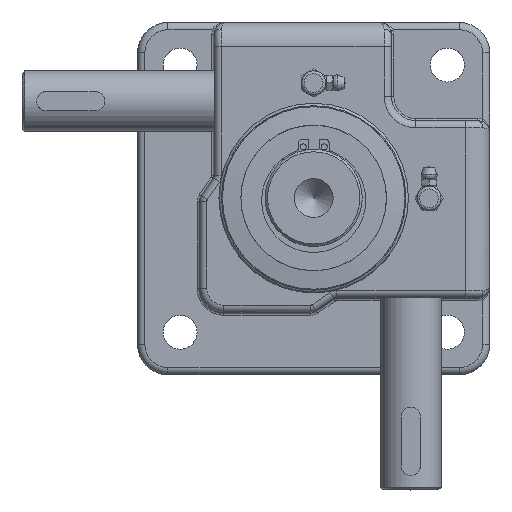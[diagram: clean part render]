
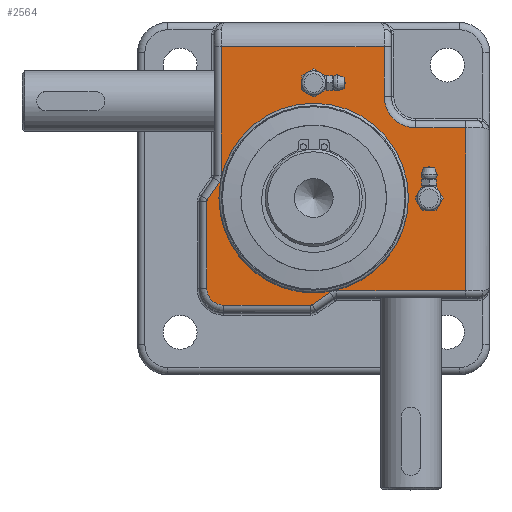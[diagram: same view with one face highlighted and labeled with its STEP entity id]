
A CAD part, top view. The second image highlights one B-rep face of the part: STEP entity #2564.
In plain terms, the highlighted planar face has unit normal (0, 0, 1).
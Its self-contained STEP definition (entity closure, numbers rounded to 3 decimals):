
#2564=ADVANCED_FACE('',(#6739,#6740,#6741,#6742),#6743,.T.);
#6739=FACE_OUTER_BOUND('',#13377,.T.);
#6740=FACE_BOUND('',#13378,.T.);
#6741=FACE_BOUND('',#13379,.T.);
#6742=FACE_BOUND('',#13380,.T.);
#6743=PLANE('',#13381);
#13377=EDGE_LOOP('',(#23647,#23648,#23649,#23650,#23651,#23652,#23653,#23654,#23655,#23656,#23657,#23658,#23659,#23660,#23661,#23662));
#13378=EDGE_LOOP('',(#23663));
#13379=EDGE_LOOP('',(#23664));
#13380=EDGE_LOOP('',(#23665));
#13381=AXIS2_PLACEMENT_3D('',#23666,#23667,#23668);
#23647=ORIENTED_EDGE('',*,*,#40716,.T.);
#23648=ORIENTED_EDGE('',*,*,#40566,.T.);
#23649=ORIENTED_EDGE('',*,*,#40568,.T.);
#23650=ORIENTED_EDGE('',*,*,#40725,.T.);
#23651=ORIENTED_EDGE('',*,*,#40140,.T.);
#23652=ORIENTED_EDGE('',*,*,#40436,.T.);
#23653=ORIENTED_EDGE('',*,*,#40439,.T.);
#23654=ORIENTED_EDGE('',*,*,#40441,.T.);
#23655=ORIENTED_EDGE('',*,*,#40726,.T.);
#23656=ORIENTED_EDGE('',*,*,#40727,.T.);
#23657=ORIENTED_EDGE('',*,*,#40709,.T.);
#23658=ORIENTED_EDGE('',*,*,#39987,.T.);
#23659=ORIENTED_EDGE('',*,*,#40728,.T.);
#23660=ORIENTED_EDGE('',*,*,#39991,.T.);
#23661=ORIENTED_EDGE('',*,*,#40563,.T.);
#23662=ORIENTED_EDGE('',*,*,#40449,.T.);
#23663=ORIENTED_EDGE('',*,*,#40337,.T.);
#23664=ORIENTED_EDGE('',*,*,#40301,.F.);
#23665=ORIENTED_EDGE('',*,*,#40517,.F.);
#23666=CARTESIAN_POINT('',(0.0,0.0,32.5));
#23667=DIRECTION('',(0.,0.,1.0));
#23668=DIRECTION('',(1.0,0.,0.));
#39987=EDGE_CURVE('',#47811,#47816,#47818,.T.);
#39991=EDGE_CURVE('',#47819,#47824,#47826,.T.);
#40140=EDGE_CURVE('',#48114,#48115,#48116,.T.);
#40301=EDGE_CURVE('',#48376,#48376,#48377,.T.);
#40337=EDGE_CURVE('',#48437,#48437,#48438,.T.);
#40436=EDGE_CURVE('',#48115,#48597,#48599,.T.);
#40439=EDGE_CURVE('',#48597,#48601,#48603,.T.);
#40441=EDGE_CURVE('',#48601,#48604,#48606,.T.);
#40449=EDGE_CURVE('',#48613,#48617,#48619,.T.);
#40517=EDGE_CURVE('',#48728,#48728,#48729,.T.);
#40563=EDGE_CURVE('',#47824,#48613,#48787,.T.);
#40566=EDGE_CURVE('',#48105,#48789,#48791,.T.);
#40568=EDGE_CURVE('',#48789,#48792,#48794,.T.);
#40709=EDGE_CURVE('',#48951,#47811,#48953,.T.);
#40716=EDGE_CURVE('',#48617,#48105,#48960,.T.);
#40725=EDGE_CURVE('',#48792,#48114,#48969,.T.);
#40726=EDGE_CURVE('',#48604,#48970,#48971,.T.);
#40727=EDGE_CURVE('',#48970,#48951,#48972,.T.);
#40728=EDGE_CURVE('',#47816,#47819,#48973,.T.);
#47811=VERTEX_POINT('',#61667);
#47816=VERTEX_POINT('',#61673);
#47818=LINE('',#61680,#61681);
#47819=VERTEX_POINT('',#61682);
#47824=VERTEX_POINT('',#61697);
#47826=LINE('',#61699,#61700);
#48105=VERTEX_POINT('',#62072);
#48114=VERTEX_POINT('',#62107);
#48115=VERTEX_POINT('',#62108);
#48116=LINE('',#62109,#62110);
#48376=VERTEX_POINT('',#62642);
#48377=CIRCLE('',#62643,3.0);
#48437=VERTEX_POINT('',#62718);
#48438=CIRCLE('',#62719,33.5);
#48597=VERTEX_POINT('',#62958);
#48599=LINE('',#62960,#62961);
#48601=VERTEX_POINT('',#62963);
#48603=CIRCLE('',#62965,5.0);
#48604=VERTEX_POINT('',#62966);
#48606=LINE('',#62973,#62974);
#48613=VERTEX_POINT('',#62983);
#48617=VERTEX_POINT('',#62988);
#48619=LINE('',#62990,#62991);
#48728=VERTEX_POINT('',#63410);
#48729=CIRCLE('',#63411,3.0);
#48787=CIRCLE('',#63549,5.0);
#48789=VERTEX_POINT('',#63552);
#48791=LINE('',#63554,#63555);
#48792=VERTEX_POINT('',#63556);
#48794=CIRCLE('',#63558,13.0);
#48951=VERTEX_POINT('',#63833);
#48953=CIRCLE('',#63835,7.0);
#48960=LINE('',#63845,#63846);
#48969=LINE('',#63856,#63857);
#48970=VERTEX_POINT('',#63858);
#48971=CIRCLE('',#63859,1.0);
#48972=LINE('',#63860,#63861);
#48973=CIRCLE('',#63862,1.0);
#61667=CARTESIAN_POINT('',(-37.,-44.0,32.5));
#61673=CARTESIAN_POINT('',(-1.223,-44.0,32.5));
#61680=CARTESIAN_POINT('',(-19.111,-44.0,32.5));
#61681=VECTOR('',#79286,1.0);
#61682=CARTESIAN_POINT('',(-0.664,-43.829,32.5));
#61697=CARTESIAN_POINT('',(6.711,-38.855,32.5));
#61699=CARTESIAN_POINT('',(3.024,-41.342,32.5));
#61700=VECTOR('',#79291,1.0);
#62072=CARTESIAN_POINT('',(62.5,29.0,32.5));
#62107=CARTESIAN_POINT('',(29.0,62.5,32.5));
#62108=CARTESIAN_POINT('',(-38.0,62.5,32.5));
#62109=CARTESIAN_POINT('',(-4.5,62.5,32.5));
#62110=VECTOR('',#79613,1.0);
#62642=CARTESIAN_POINT('',(50.5,0.,32.5));
#62643=AXIS2_PLACEMENT_3D('',#79877,#79878,#79879);
#62718=CARTESIAN_POINT('',(33.5,0.,32.5));
#62719=AXIS2_PLACEMENT_3D('',#79955,#79956,#79957);
#62958=CARTESIAN_POINT('',(-38.0,9.507,32.5));
#62960=CARTESIAN_POINT('',(-38.0,36.003,32.5));
#62961=VECTOR('',#80163,1.0);
#62963=CARTESIAN_POINT('',(-38.855,6.711,32.5));
#62965=AXIS2_PLACEMENT_3D('',#80170,#80171,#80172);
#62966=CARTESIAN_POINT('',(-43.829,-0.664,32.5));
#62973=CARTESIAN_POINT('',(-41.342,3.024,32.5));
#62974=VECTOR('',#80173,1.0);
#62983=CARTESIAN_POINT('',(9.507,-38.0,32.5));
#62988=CARTESIAN_POINT('',(62.5,-38.0,32.5));
#62990=CARTESIAN_POINT('',(36.003,-38.0,32.5));
#62991=VECTOR('',#80189,1.0);
#63410=CARTESIAN_POINT('',(3.0,47.5,32.5));
#63411=AXIS2_PLACEMENT_3D('',#80316,#80317,#80318);
#63549=AXIS2_PLACEMENT_3D('',#80392,#80393,#80394);
#63552=CARTESIAN_POINT('',(42.0,29.0,32.5));
#63554=CARTESIAN_POINT('',(52.25,29.0,32.5));
#63555=VECTOR('',#80399,1.0);
#63556=CARTESIAN_POINT('',(29.0,42.,32.5));
#63558=AXIS2_PLACEMENT_3D('',#80403,#80404,#80405);
#63833=CARTESIAN_POINT('',(-44.0,-37.0,32.5));
#63835=AXIS2_PLACEMENT_3D('',#80684,#80685,#80686);
#63845=CARTESIAN_POINT('',(62.5,-4.5,32.5));
#63846=VECTOR('',#80699,1.0);
#63856=CARTESIAN_POINT('',(29.0,52.25,32.5));
#63857=VECTOR('',#80722,1.0);
#63858=CARTESIAN_POINT('',(-44.0,-1.223,32.5));
#63859=AXIS2_PLACEMENT_3D('',#80723,#80724,#80725);
#63860=CARTESIAN_POINT('',(-44.0,-19.111,32.5));
#63861=VECTOR('',#80726,1.0);
#63862=AXIS2_PLACEMENT_3D('',#80727,#80728,#80729);
#79286=DIRECTION('',(1.0,0.0,0.));
#79291=DIRECTION('',(0.829,0.559,0.0));
#79613=DIRECTION('',(-1.0,0.0,0.));
#79877=CARTESIAN_POINT('',(47.5,0.0,32.5));
#79878=DIRECTION('',(0.,0.,1.0));
#79879=DIRECTION('',(1.0,0.,0.));
#79955=CARTESIAN_POINT('',(0.,0.0,32.5));
#79956=DIRECTION('',(0.,0.,-1.0));
#79957=DIRECTION('',(1.0,0.,0.));
#80163=DIRECTION('',(0.0,-1.0,0.));
#80170=CARTESIAN_POINT('',(-43.0,9.507,32.5));
#80171=DIRECTION('',(0.,0.,-1.0));
#80172=DIRECTION('',(1.0,0.,0.));
#80173=DIRECTION('',(-0.559,-0.829,0.0));
#80189=DIRECTION('',(1.0,0.0,0.));
#80316=CARTESIAN_POINT('',(0.0,47.5,32.5));
#80317=DIRECTION('',(0.,0.,1.0));
#80318=DIRECTION('',(1.0,0.,0.));
#80392=CARTESIAN_POINT('',(9.507,-43.0,32.5));
#80393=DIRECTION('',(0.,0.,-1.0));
#80394=DIRECTION('',(1.0,0.,0.));
#80399=DIRECTION('',(-1.0,0.0,0.0));
#80403=CARTESIAN_POINT('',(42.0,42.0,32.5));
#80404=DIRECTION('',(0.,0.,-1.0));
#80405=DIRECTION('',(1.0,0.,0.));
#80684=CARTESIAN_POINT('',(-37.0,-37.0,32.5));
#80685=DIRECTION('',(0.,0.,1.0));
#80686=DIRECTION('',(1.0,0.,0.));
#80699=DIRECTION('',(0.0,1.0,0.));
#80722=DIRECTION('',(0.0,1.0,0.));
#80723=CARTESIAN_POINT('',(-43.0,-1.223,32.5));
#80724=DIRECTION('',(0.,0.,1.0));
#80725=DIRECTION('',(1.0,0.,0.));
#80726=DIRECTION('',(0.0,-1.0,0.));
#80727=CARTESIAN_POINT('',(-1.223,-43.0,32.5));
#80728=DIRECTION('',(0.,0.,1.0));
#80729=DIRECTION('',(1.0,0.,0.));
